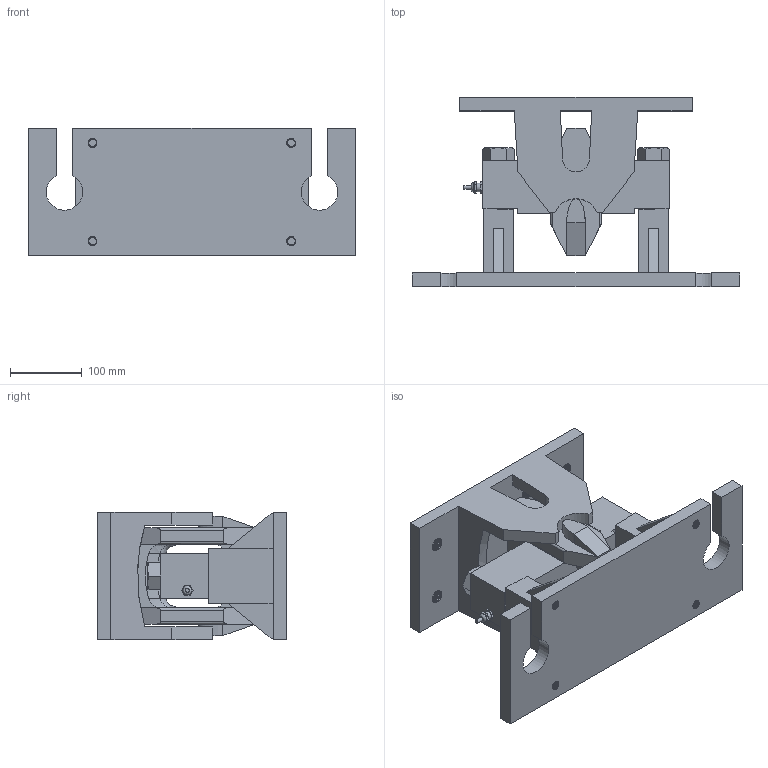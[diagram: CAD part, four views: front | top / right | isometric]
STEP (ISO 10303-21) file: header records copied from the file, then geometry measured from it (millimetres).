
FILE_DESCRIPTION(/* description */ (''),/* implementation_level */ '2;1');
FILE_NAME(/* name */ 'C:/Users/fardi/Dropbox/Work/Anyload/Load Cell Models/Product Catalog 3D/Weight Modules/102/102BHM1/102BHM1-(50-75)klb v4.step',/* time_stamp */ '2020-04-02T12:32:11-07:00',/* author */ (''),/* organization */ (''),/* preprocessor_version */ 'ST-DEVELOPER v18',/* originating_system */ 'Autodesk Translation Framework v8.12.0.6',/* authorisation */ '');
FILE_SCHEMA (('AUTOMOTIVE_DESIGN { 1 0 10303 214 3 1 1 }'));
Products named in the file (8): 102BHM1-(50-75)klb; Base; 102BH-(50-75)klb; Connector; 91257A961; 91257A961(Mirror); Middle Piece; Top Piece
Assembly tree (7 placements, depth 3):
  102BHM1-(50-75)klb
    Base
    102BH-(50-75)klb
      Connector
    91257A961
    91257A961(Mirror)
    Middle Piece
    Top Piece
Bounding box: 457.2 x 264 x 178 mm (x, y, z)
Volume: 5825837.4 mm3; surface area: 701033.2 mm2
Topology: 7 solids, 7 shells, 682 faces, 1866 edges, 1213 vertices
Faces by surface type: cylinder 429, plane 185, bspline 49, cone 19
Full cylindrical faces by diameter (mm): 5.1 x1, 10 x1, 10.808 x40, 12 x2, 12.7 x36, 13 x1, 16.467 x56, 19.05 x64, 21.276 x34, 22.159 x24, 25.4 x62, 26.924 x2
Entity records: 61086 total; most frequent: CARTESIAN_POINT 45205, ORIENTED_EDGE 3730, DIRECTION 2580, EDGE_CURVE 1865, VERTEX_POINT 1213, AXIS2_PLACEMENT_3D 871, LINE 838, VECTOR 838
